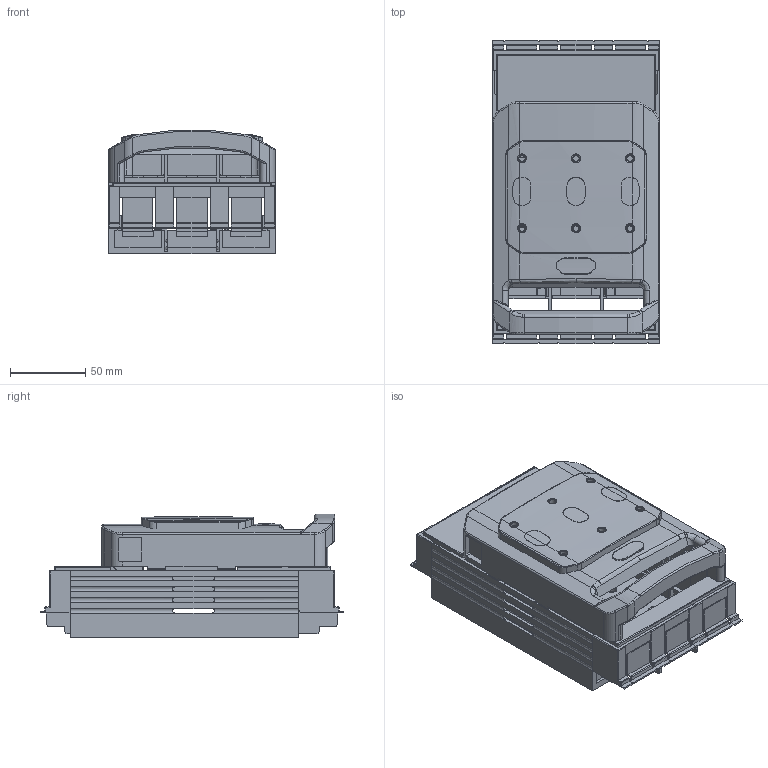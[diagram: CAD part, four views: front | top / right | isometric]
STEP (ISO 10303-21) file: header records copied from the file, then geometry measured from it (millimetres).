
FILE_DESCRIPTION(/* description */ (''),/* implementation_level */ '2;1');
FILE_NAME(/* name */ 'DNH1-160 30 3D Logosuz.stp',/* time_stamp */ '2023-01-23T15:48:32+03:00',/* author */ (''),/* organization */ (''),/* preprocessor_version */ 'ST-DEVELOPER v16.7',/* originating_system */ 'SIEMENS PLM Software NX 1915',/* authorisation */ '');
FILE_SCHEMA (('AP203_CONFIGURATION_CONTROLLED_3D_DESIGN_OF_MECHANICAL_PARTS_AND_ASSEMBLIES_MIM_LF { 1 0 10303 403 2 1 2}'));
Products named in the file (1): DNH1-160 30 3D drawing_step
Bounding box: 111 x 202 x 82.28 mm (x, y, z)
Volume: 209391.2 mm3; surface area: 246602 mm2
Topology: 39 solids, 39 shells, 4290 faces, 12146 edges, 7910 vertices
Faces by surface type: plane 3063, cylinder 934, bspline 131, torus 101, cone 37, sphere 23, revolution 1
Entity records: 144182 total; most frequent: CARTESIAN_POINT 32476, ORIENTED_EDGE 24262, DIRECTION 21825, EDGE_CURVE 12131, LINE 9540, VECTOR 9540, VERTEX_POINT 7910, AXIS2_PLACEMENT_3D 6142
